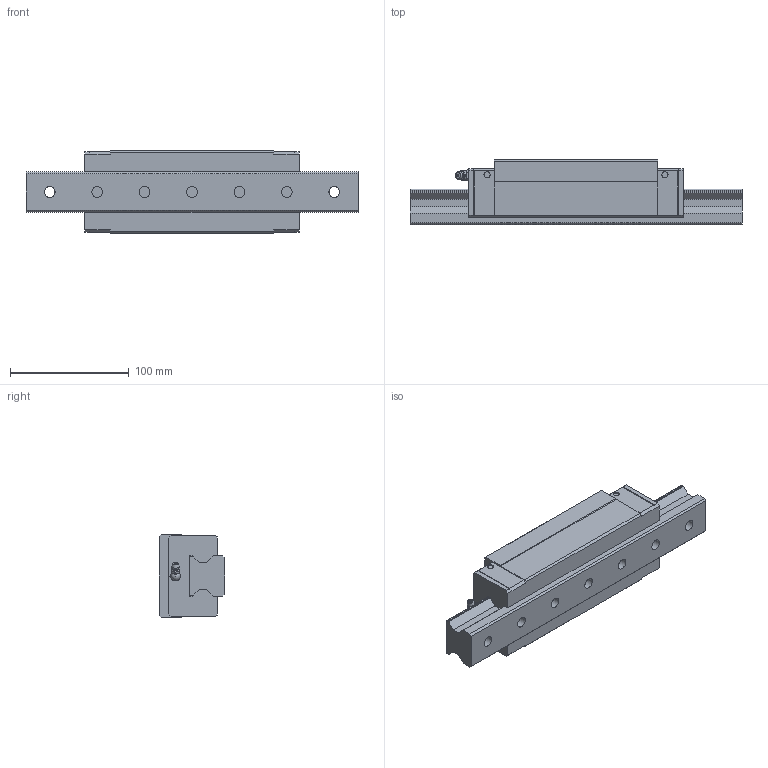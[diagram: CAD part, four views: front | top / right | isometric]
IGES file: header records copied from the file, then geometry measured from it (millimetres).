
Start section: Data from Parasolid IGES Translator 26.0.171, Copyright(c) 2006 Siemens PLM Software. All Rights Reserved.
Global section: file name: SRG35SLR1SS-280LH_G20_0_B-M6F_49-6_0_0_0_1.igs; native system: By Siemens PLM Incorporated; preprocessor: XPlus GENERIC/IGES 26.0.171; author: Noname; organization: Noname; date: 20240523.102316; units: millimetre
Bounding box: 280 x 55 x 70 mm (x, y, z)
Surface area: 106807.6 mm2 (no closed solid volume)
Topology: 0 solids, 0 shells, 203 faces, 1031 edges, 934 vertices
Faces by surface type: extrusion 127, revolution 76
